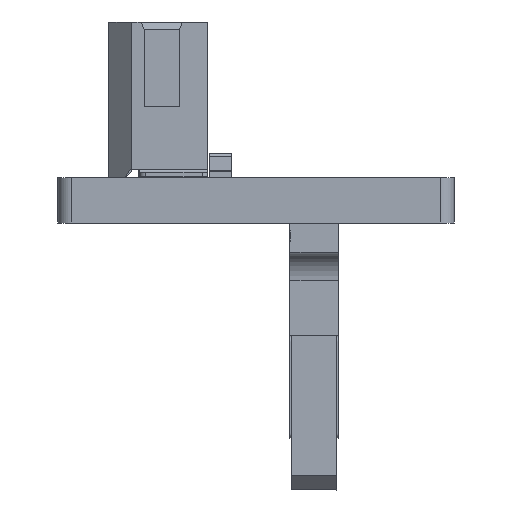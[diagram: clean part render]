
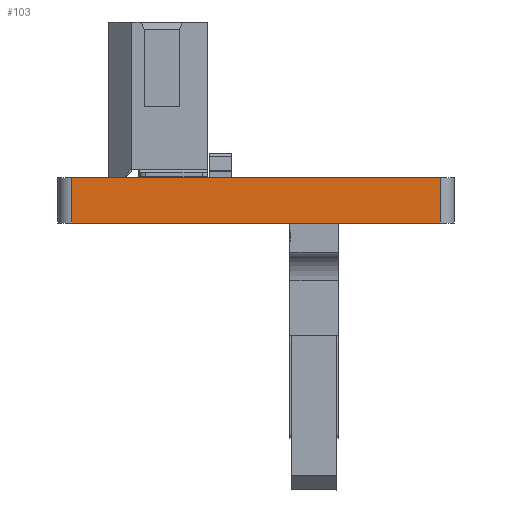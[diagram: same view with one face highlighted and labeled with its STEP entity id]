
A CAD part, left-side view. The second image highlights one B-rep face of the part: STEP entity #103.
In plain terms, the highlighted planar face has unit normal (-1, 0, 0).
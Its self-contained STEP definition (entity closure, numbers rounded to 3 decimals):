
#76 = VERTEX_POINT('',#77);
#77 = CARTESIAN_POINT('',(-1.75,-11.75,1.6));
#84 = EDGE_CURVE('',#85,#76,#87,.T.);
#85 = VERTEX_POINT('',#86);
#86 = CARTESIAN_POINT('',(-1.75,-11.75,0.));
#87 = LINE('',#88,#89);
#88 = CARTESIAN_POINT('',(-1.75,-11.75,0.));
#89 = VECTOR('',#90,1.);
#90 = DIRECTION('',(0.,0.,1.));
#103 = ADVANCED_FACE('',(#104),#129,.T.);
#104 = FACE_BOUND('',#105,.T.);
#105 = EDGE_LOOP('',(#106,#107,#115,#123));
#106 = ORIENTED_EDGE('',*,*,#84,.T.);
#107 = ORIENTED_EDGE('',*,*,#108,.T.);
#108 = EDGE_CURVE('',#76,#109,#111,.T.);
#109 = VERTEX_POINT('',#110);
#110 = CARTESIAN_POINT('',(-1.75,1.25,1.6));
#111 = LINE('',#112,#113);
#112 = CARTESIAN_POINT('',(-1.75,-11.75,1.6));
#113 = VECTOR('',#114,1.);
#114 = DIRECTION('',(0.,1.,0.));
#115 = ORIENTED_EDGE('',*,*,#116,.F.);
#116 = EDGE_CURVE('',#117,#109,#119,.T.);
#117 = VERTEX_POINT('',#118);
#118 = CARTESIAN_POINT('',(-1.75,1.25,0.));
#119 = LINE('',#120,#121);
#120 = CARTESIAN_POINT('',(-1.75,1.25,0.));
#121 = VECTOR('',#122,1.);
#122 = DIRECTION('',(0.,0.,1.));
#123 = ORIENTED_EDGE('',*,*,#124,.F.);
#124 = EDGE_CURVE('',#85,#117,#125,.T.);
#125 = LINE('',#126,#127);
#126 = CARTESIAN_POINT('',(-1.75,-11.75,0.));
#127 = VECTOR('',#128,1.);
#128 = DIRECTION('',(0.,1.,0.));
#129 = PLANE('',#130);
#130 = AXIS2_PLACEMENT_3D('',#131,#132,#133);
#131 = CARTESIAN_POINT('',(-1.75,-11.75,0.));
#132 = DIRECTION('',(-1.,0.,0.));
#133 = DIRECTION('',(0.,1.,0.));
